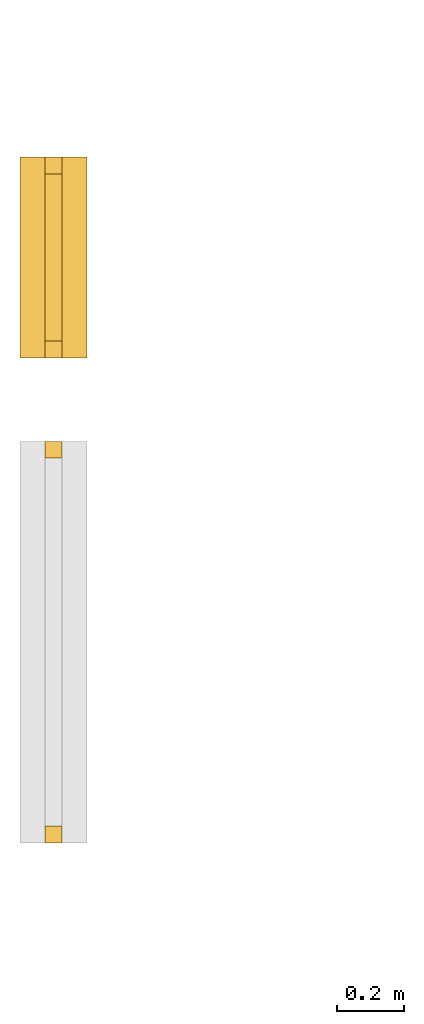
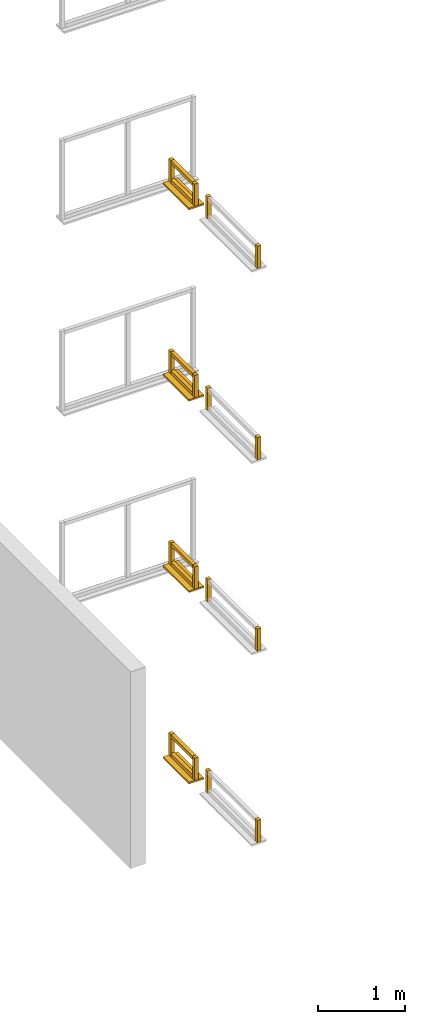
# Not in any storey, part 19 of 22: 28 windows.
"""IFC2X3 model written with IfcOpenShell, lengths in metres."""

import ifcopenshell
import ifcopenshell.guid

model = None  # the IFC model being written
_history = None  # IfcOwnerHistory: only IFC2X3 demands one
_inside = {}  # id of a spatial element -> (the spatial element, [elements in it])
_under = {}  # id of a project, library or spatial element -> (it, [spatial elements below it])
_declared = {}  # id of a project -> (the project, [libraries it declares])
_typed = {}  # id of a type object -> (the type object, [elements of that type])
_made_of = {}  # id of a material, layer set ... -> (it, [elements and type objects made of it])


def new_model(schema):
    """Start an empty IFC model of exactly this schema.

    Asked for "IFC4X3", IfcOpenShell would pick the latest addendum, in which some entities
    have other attributes; the version numbers below select the first issue.
    IFC2X3 requires an IfcOwnerHistory on every rooted entity: one is made here for all.
    """
    global model, _history
    if schema == "IFC4X3":
        model = ifcopenshell.file(schema_version=(4, 3, 0, 0))
    else:
        model = ifcopenshell.file(schema=schema)
    _inside.clear()
    _under.clear()
    _declared.clear()
    _typed.clear()
    _made_of.clear()
    _history = None
    if model.schema == "IFC2X3":
        org = make("IfcOrganization", Name="unknown")
        user = make(
            "IfcPersonAndOrganization",
            ThePerson=make("IfcPerson", FamilyName="unknown"),
            TheOrganization=org,
        )
        app = make(
            "IfcApplication",
            ApplicationDeveloper=org,
            Version="unknown",
            ApplicationFullName="unknown",
            ApplicationIdentifier="unknown",
        )
        _history = make(
            "IfcOwnerHistory",
            OwningUser=user,
            OwningApplication=app,
            ChangeAction="ADDED",
            CreationDate=0,
        )
    return model


def make(cls, **values):
    """One entity of the class cls with the attributes given. An attribute that is None is left unset."""
    return model.create_entity(
        cls, **{name: value for name, value in values.items() if value is not None}
    )


def rooted(cls, **values):
    """An entity with a GlobalId (a new one), such as an element, a storey or a relation."""
    return make(cls, GlobalId=ifcopenshell.guid.new(), OwnerHistory=_history, **values)


def si_unit(unit_type, name, prefix=None):
    """IfcSIUnit, for example si_unit("LENGTHUNIT", "METRE", prefix="MILLI")."""
    return make("IfcSIUnit", UnitType=unit_type, Prefix=prefix, Name=name)


def assignment(units):
    """IfcUnitAssignment: the units of a project."""
    return None if units is None else make("IfcUnitAssignment", Units=units)


def point(xyz):
    """IfcCartesianPoint."""
    return None if xyz is None else make("IfcCartesianPoint", Coordinates=xyz)


def direction(xyz):
    """IfcDirection."""
    return None if xyz is None else make("IfcDirection", DirectionRatios=xyz)


def frame(location, z_axis=None, x_axis=None):
    """IfcAxis2Placement3D, a coordinate frame: its origin and axes. An axis left out is left unset."""
    return make(
        "IfcAxis2Placement3D",
        Location=point(location),
        Axis=direction(z_axis),
        RefDirection=direction(x_axis),
    )


def origin():
    """The frame at (0, 0, 0) with its axes left unset."""
    return frame((0.0, 0.0, 0.0))


def place(relative_to, where):
    """IfcLocalPlacement: puts the frame where relative to a parent placement (None: the world)."""
    return make(
        "IfcLocalPlacement", PlacementRelTo=relative_to, RelativePlacement=where
    )


def context(
    kind, dimensions, precision=None, world=None, true_north=None, identifier=None
):
    """IfcGeometricRepresentationContext, for example the 3D "Model" context."""
    return make(
        "IfcGeometricRepresentationContext",
        ContextIdentifier=identifier,
        ContextType=kind,
        CoordinateSpaceDimension=dimensions,
        Precision=precision,
        WorldCoordinateSystem=world,
        TrueNorth=true_north,
    )


def project(units=None, contexts=None):
    """IfcProject with its units and contexts."""
    return rooted(
        "IfcProject",
        Name="project",
        RepresentationContexts=contexts,
        UnitsInContext=assignment(units),
    )


def faces_of(points, faces, orient=None, outer=None):
    """IfcFace entities. A face is a list of loops; a loop is a list of indices into points, from 0.

    orient and outer hold one flag for each loop. By default every Orientation is true, the
    first loop of a face is its IfcFaceOuterBound and the others are IfcFaceBound.
    """
    made = []
    for i, loops in enumerate(faces):
        bounds = []
        for j, loop in enumerate(loops):
            is_outer = j == 0 if outer is None else outer[i][j]
            bounds.append(
                make(
                    "IfcFaceOuterBound" if is_outer else "IfcFaceBound",
                    Bound=make("IfcPolyLoop", Polygon=[points[k] for k in loop]),
                    Orientation=True if orient is None else orient[i][j],
                )
            )
        made.append(make("IfcFace", Bounds=bounds))
    return made


def faceted_brep(points, faces, orient=None, outer=None, voids=None):
    """IfcFacetedBrep: a solid bounded by flat faces; with voids (closed shells), ...WithVoids."""
    shared = [point(p) for p in points]
    hull = make("IfcClosedShell", CfsFaces=faces_of(shared, faces, orient, outer))
    if voids is None:
        return make("IfcFacetedBrep", Outer=hull)
    return make(
        "IfcFacetedBrepWithVoids",
        Outer=hull,
        Voids=[
            make(cls, CfsFaces=faces_of(shared, fs, o, b)) for cls, fs, o, b in voids
        ],
    )


def shape(context_of_items, identifier, shape_type, items):
    """IfcShapeRepresentation: the items that make up one representation, for example the "Body"."""
    return make(
        "IfcShapeRepresentation",
        ContextOfItems=context_of_items,
        RepresentationIdentifier=identifier,
        RepresentationType=shape_type,
        Items=items,
    )


def made_of(thing, what):
    """Note that an element or type object is made of a material, layer set ...; save() writes the relation."""
    if what is not None:
        _made_of.setdefault(what.id(), (what, []))[1].append(thing)
    return thing


def element(
    cls,
    number,
    at=None,
    inside=None,
    cuts=None,
    type_object=None,
    material=None,
    context=None,
    identifier="Body",
    shape_type=None,
    held_by="IfcProductDefinitionShape",
    body=None,
    shapes=None,
    **own,
):
    """One element of the class cls, such as IfcWall. Its Tag is "e" and its number.

    at: its placement. inside: the storey or other place that contains it. cuts: it is an
    opening in that element (IfcRelVoidsElement). A single representation is given by context,
    identifier, shape_type and body (its items); several are given by shapes. held_by: the class
    of the entity that holds the representations. save() writes the other relations.
    """
    e = rooted(cls, Tag="e%d" % number, ObjectPlacement=at, **own)
    if body is not None:
        shapes = [shape(context, identifier, shape_type, body)]
    if shapes is not None:
        e.Representation = make(held_by, Representations=shapes)
    if inside is not None:
        _inside.setdefault(inside.id(), (inside, []))[1].append(e)
    if cuts is not None:
        rooted(
            "IfcRelVoidsElement", RelatingBuildingElement=cuts, RelatedOpeningElement=e
        )
    if type_object is not None:
        _typed.setdefault(type_object.id(), (type_object, []))[1].append(e)
    return made_of(e, material)


def aggregate(whole, parts):
    """IfcRelAggregates: a whole, such as a stair, and the parts it consists of."""
    return rooted("IfcRelAggregates", RelatingObject=whole, RelatedObjects=parts)


def save(model, path):
    """Write the relations noted so far, then the file.

    IfcRelAggregates (storeys below a building ...), IfcRelContainedInSpatialStructure (elements
    in a storey), IfcRelDefinesByType, IfcRelAssociatesMaterial and IfcRelDeclares: one each for
    every whole, place, type object, material and project.
    """
    for whole, parts in _under.values():
        aggregate(whole, parts)
    for where, things in _inside.values():
        rooted(
            "IfcRelContainedInSpatialStructure",
            RelatedElements=things,
            RelatingStructure=where,
        )
    for kind, things in _typed.values():
        rooted("IfcRelDefinesByType", RelatedObjects=things, RelatingType=kind)
    for what, things in _made_of.values():
        rooted("IfcRelAssociatesMaterial", RelatedObjects=things, RelatingMaterial=what)
    for by, libraries in _declared.values():
        rooted("IfcRelDeclares", RelatingContext=by, RelatedDefinitions=libraries)
    model.write(path)


model = new_model("IFC2X3")

# Units and contexts
model_context = context("Model", 3, precision=1e-06, world=origin())
ifc_project = project(units=[si_unit("LENGTHUNIT", "METRE"), si_unit("PLANEANGLEUNIT", "RADIAN")], contexts=[model_context])

# Windows
placement = place(None, origin())
window_1_placement = place(placement, frame((-0.20000000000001, 6.270077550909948, 9.910000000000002), z_axis=(0.0, 0.0, 1.0), x_axis=(0.0, -1.0, 0.0)))
element("IfcWindow", 1, at=window_1_placement, Name="windowSill", context=model_context, shape_type="Brep", body=[
    faceted_brep([(0.0, 0.2, 0.0), (0.6, 0.2, 0.0), (0.6, 0.0, 0.0), (0.0, 0.0, 0.0), (0.6, 0.0, 0.025), (0.6, 0.2, 0.025), (0.0, 0.2, 0.025), (0.0, 0.0, 0.025), (0.0, 0.2, 0.0), (0.0, 0.0, 0.0), (0.0, 0.0, 0.025), (0.0, 0.2, 0.025), (0.6, 0.2, 0.0), (0.0, 0.2, 0.0), (0.0, 0.2, 0.025), (0.6, 0.2, 0.025), (0.6, 0.0, 0.0), (0.6, 0.2, 0.0), (0.6, 0.2, 0.025), (0.6, 0.0, 0.025), (0.0, 0.0, 0.0), (0.6, 0.0, 0.0), (0.6, 0.0, 0.025), (0.0, 0.0, 0.025)], [[[0, 1, 2, 3]], [[4, 5, 6, 7]], [[8, 9, 10, 11]], [[12, 13, 14, 15]], [[16, 17, 18, 19]], [[20, 21, 22, 23]]]),
])
for number, where, z_axis, x_axis, name in (
    (2, (-0.12500000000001, 5.420077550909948, 1.835), (0.0, 0.0, 1.0), (0.0, -1.0, 0.0), "leftFrame"),
    (3, (-0.12500000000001, 4.270077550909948, 1.835), (0.0, 0.0, 1.0), (0.0, -1.0, 0.0), "rightFrame"),
):
    element("IfcWindow", number, at=place(placement, frame(where, z_axis=z_axis, x_axis=x_axis)), Name=name, context=model_context, shape_type="Brep", body=[
        faceted_brep([(0.0, 0.05, 0.0), (0.05, 0.05, 0.0), (0.05, 0.0, 0.0), (0.0, 0.0, 0.0), (0.05, 0.0, 0.315), (0.05, 0.05, 0.315), (0.0, 0.05, 0.315), (0.0, 0.0, 0.315), (0.0, 0.05, 0.0), (0.0, 0.0, 0.0), (0.0, 0.0, 0.315), (0.0, 0.05, 0.315), (0.05, 0.05, 0.0), (0.0, 0.05, 0.0), (0.0, 0.05, 0.315), (0.05, 0.05, 0.315), (0.05, 0.0, 0.0), (0.05, 0.05, 0.0), (0.05, 0.05, 0.315), (0.05, 0.0, 0.315), (0.0, 0.0, 0.0), (0.05, 0.0, 0.0), (0.05, 0.0, 0.315), (0.0, 0.0, 0.315)], [[[0, 1, 2, 3]], [[4, 5, 6, 7]], [[8, 9, 10, 11]], [[12, 13, 14, 15]], [[16, 17, 18, 19]], [[20, 21, 22, 23]]]),
    ])
for number, where, z_axis, x_axis, name in (
    (4, (-0.12500000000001, 6.220077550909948, 1.835), (0.0, 0.0, 1.0), (0.0, -1.0, 0.0), "bottomFrame"),
    (5, (-0.12500000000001, 6.220077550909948, 2.100000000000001), (0.0, 0.0, 1.0), (0.0, -1.0, 0.0), "topFrame"),
):
    element("IfcWindow", number, at=place(placement, frame(where, z_axis=z_axis, x_axis=x_axis)), Name=name, context=model_context, shape_type="Brep", body=[
        faceted_brep([(0.0, 0.05, 0.0), (0.5, 0.05, 0.0), (0.5, 0.0, 0.0), (0.0, 0.0, 0.0), (0.5, 0.0, 0.05), (0.5, 0.05, 0.05), (0.0, 0.05, 0.05), (0.0, 0.0, 0.05), (0.0, 0.05, 0.0), (0.0, 0.0, 0.0), (0.0, 0.0, 0.05), (0.0, 0.05, 0.05), (0.5, 0.05, 0.0), (0.0, 0.05, 0.0), (0.0, 0.05, 0.05), (0.5, 0.05, 0.05), (0.5, 0.0, 0.0), (0.5, 0.05, 0.0), (0.5, 0.05, 0.05), (0.5, 0.0, 0.05), (0.0, 0.0, 0.0), (0.5, 0.0, 0.0), (0.5, 0.0, 0.05), (0.0, 0.0, 0.05)], [[[0, 1, 2, 3]], [[4, 5, 6, 7]], [[8, 9, 10, 11]], [[12, 13, 14, 15]], [[16, 17, 18, 19]], [[20, 21, 22, 23]]]),
    ])
for number, where, z_axis, x_axis, name in (
    (6, (-0.12500000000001, 6.270077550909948, 1.835), (0.0, 0.0, 1.0), (0.0, -1.0, 0.0), "leftFrame"),
    (7, (-0.12500000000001, 5.720077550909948, 1.835), (0.0, 0.0, 1.0), (0.0, -1.0, 0.0), "rightFrame"),
):
    element("IfcWindow", number, at=place(placement, frame(where, z_axis=z_axis, x_axis=x_axis)), Name=name, context=model_context, shape_type="Brep", body=[
        faceted_brep([(0.0, 0.05, 0.0), (0.05, 0.05, 0.0), (0.05, 0.0, 0.0), (0.0, 0.0, 0.0), (0.05, 0.0, 0.315), (0.05, 0.05, 0.315), (0.0, 0.05, 0.315), (0.0, 0.0, 0.315), (0.0, 0.05, 0.0), (0.0, 0.0, 0.0), (0.0, 0.0, 0.315), (0.0, 0.05, 0.315), (0.05, 0.05, 0.0), (0.0, 0.05, 0.0), (0.0, 0.05, 0.315), (0.05, 0.05, 0.315), (0.05, 0.0, 0.0), (0.05, 0.05, 0.0), (0.05, 0.05, 0.315), (0.05, 0.0, 0.315), (0.0, 0.0, 0.0), (0.05, 0.0, 0.0), (0.05, 0.0, 0.315), (0.0, 0.0, 0.315)], [[[0, 1, 2, 3]], [[4, 5, 6, 7]], [[8, 9, 10, 11]], [[12, 13, 14, 15]], [[16, 17, 18, 19]], [[20, 21, 22, 23]]]),
    ])
window_2_placement = place(placement, frame((-0.20000000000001, 6.270077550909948, 1.810000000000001), z_axis=(0.0, 0.0, 1.0), x_axis=(0.0, -1.0, 0.0)))
element("IfcWindow", 8, at=window_2_placement, Name="windowSill", context=model_context, shape_type="Brep", body=[
    faceted_brep([(0.0, 0.2, 0.0), (0.6, 0.2, 0.0), (0.6, 0.0, 0.0), (0.0, 0.0, 0.0), (0.6, 0.0, 0.025), (0.6, 0.2, 0.025), (0.0, 0.2, 0.025), (0.0, 0.0, 0.025), (0.0, 0.2, 0.0), (0.0, 0.0, 0.0), (0.0, 0.0, 0.025), (0.0, 0.2, 0.025), (0.6, 0.2, 0.0), (0.0, 0.2, 0.0), (0.0, 0.2, 0.025), (0.6, 0.2, 0.025), (0.6, 0.0, 0.0), (0.6, 0.2, 0.0), (0.6, 0.2, 0.025), (0.6, 0.0, 0.025), (0.0, 0.0, 0.0), (0.6, 0.0, 0.0), (0.6, 0.0, 0.025), (0.0, 0.0, 0.025)], [[[0, 1, 2, 3]], [[4, 5, 6, 7]], [[8, 9, 10, 11]], [[12, 13, 14, 15]], [[16, 17, 18, 19]], [[20, 21, 22, 23]]]),
])
for number, where, z_axis, x_axis, name in (
    (9, (-0.12500000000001, 4.270077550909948, 4.535000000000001), (0.0, 0.0, 1.0), (0.0, -1.0, 0.0), "rightFrame"),
    (10, (-0.12500000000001, 5.420077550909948, 4.535000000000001), (0.0, 0.0, 1.0), (0.0, -1.0, 0.0), "leftFrame"),
):
    element("IfcWindow", number, at=place(placement, frame(where, z_axis=z_axis, x_axis=x_axis)), Name=name, context=model_context, shape_type="Brep", body=[
        faceted_brep([(0.0, 0.05, 0.0), (0.05, 0.05, 0.0), (0.05, 0.0, 0.0), (0.0, 0.0, 0.0), (0.05, 0.0, 0.315), (0.05, 0.05, 0.315), (0.0, 0.05, 0.315), (0.0, 0.0, 0.315), (0.0, 0.05, 0.0), (0.0, 0.0, 0.0), (0.0, 0.0, 0.315), (0.0, 0.05, 0.315), (0.05, 0.05, 0.0), (0.0, 0.05, 0.0), (0.0, 0.05, 0.315), (0.05, 0.05, 0.315), (0.05, 0.0, 0.0), (0.05, 0.05, 0.0), (0.05, 0.05, 0.315), (0.05, 0.0, 0.315), (0.0, 0.0, 0.0), (0.05, 0.0, 0.0), (0.05, 0.0, 0.315), (0.0, 0.0, 0.315)], [[[0, 1, 2, 3]], [[4, 5, 6, 7]], [[8, 9, 10, 11]], [[12, 13, 14, 15]], [[16, 17, 18, 19]], [[20, 21, 22, 23]]]),
    ])
window_3_placement = place(placement, frame((-0.20000000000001, 6.270077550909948, 4.510000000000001), z_axis=(0.0, 0.0, 1.0), x_axis=(0.0, -1.0, 0.0)))
element("IfcWindow", 11, at=window_3_placement, Name="windowSill", context=model_context, shape_type="Brep", body=[
    faceted_brep([(0.0, 0.2, 0.0), (0.6, 0.2, 0.0), (0.6, 0.0, 0.0), (0.0, 0.0, 0.0), (0.6, 0.0, 0.025), (0.6, 0.2, 0.025), (0.0, 0.2, 0.025), (0.0, 0.0, 0.025), (0.0, 0.2, 0.0), (0.0, 0.0, 0.0), (0.0, 0.0, 0.025), (0.0, 0.2, 0.025), (0.6, 0.2, 0.0), (0.0, 0.2, 0.0), (0.0, 0.2, 0.025), (0.6, 0.2, 0.025), (0.6, 0.0, 0.0), (0.6, 0.2, 0.0), (0.6, 0.2, 0.025), (0.6, 0.0, 0.025), (0.0, 0.0, 0.0), (0.6, 0.0, 0.0), (0.6, 0.0, 0.025), (0.0, 0.0, 0.025)], [[[0, 1, 2, 3]], [[4, 5, 6, 7]], [[8, 9, 10, 11]], [[12, 13, 14, 15]], [[16, 17, 18, 19]], [[20, 21, 22, 23]]]),
])
for number, where, z_axis, x_axis, name in (
    (12, (-0.12500000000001, 5.720077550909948, 4.535000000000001), (0.0, 0.0, 1.0), (0.0, -1.0, 0.0), "rightFrame"),
    (13, (-0.12500000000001, 6.270077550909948, 4.535000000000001), (0.0, 0.0, 1.0), (0.0, -1.0, 0.0), "leftFrame"),
):
    element("IfcWindow", number, at=place(placement, frame(where, z_axis=z_axis, x_axis=x_axis)), Name=name, context=model_context, shape_type="Brep", body=[
        faceted_brep([(0.0, 0.05, 0.0), (0.05, 0.05, 0.0), (0.05, 0.0, 0.0), (0.0, 0.0, 0.0), (0.05, 0.0, 0.315), (0.05, 0.05, 0.315), (0.0, 0.05, 0.315), (0.0, 0.0, 0.315), (0.0, 0.05, 0.0), (0.0, 0.0, 0.0), (0.0, 0.0, 0.315), (0.0, 0.05, 0.315), (0.05, 0.05, 0.0), (0.0, 0.05, 0.0), (0.0, 0.05, 0.315), (0.05, 0.05, 0.315), (0.05, 0.0, 0.0), (0.05, 0.05, 0.0), (0.05, 0.05, 0.315), (0.05, 0.0, 0.315), (0.0, 0.0, 0.0), (0.05, 0.0, 0.0), (0.05, 0.0, 0.315), (0.0, 0.0, 0.315)], [[[0, 1, 2, 3]], [[4, 5, 6, 7]], [[8, 9, 10, 11]], [[12, 13, 14, 15]], [[16, 17, 18, 19]], [[20, 21, 22, 23]]]),
    ])
for number, where, z_axis, x_axis, name in (
    (14, (-0.12500000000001, 6.220077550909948, 4.800000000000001), (0.0, 0.0, 1.0), (0.0, -1.0, 0.0), "topFrame"),
    (15, (-0.12500000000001, 6.220077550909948, 4.535000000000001), (0.0, 0.0, 1.0), (0.0, -1.0, 0.0), "bottomFrame"),
    (16, (-0.12500000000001, 6.220077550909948, 7.235000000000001), (0.0, 0.0, 1.0), (0.0, -1.0, 0.0), "bottomFrame"),
    (17, (-0.12500000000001, 6.220077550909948, 7.500000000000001), (0.0, 0.0, 1.0), (0.0, -1.0, 0.0), "topFrame"),
):
    element("IfcWindow", number, at=place(placement, frame(where, z_axis=z_axis, x_axis=x_axis)), Name=name, context=model_context, shape_type="Brep", body=[
        faceted_brep([(0.0, 0.05, 0.0), (0.5, 0.05, 0.0), (0.5, 0.0, 0.0), (0.0, 0.0, 0.0), (0.5, 0.0, 0.05), (0.5, 0.05, 0.05), (0.0, 0.05, 0.05), (0.0, 0.0, 0.05), (0.0, 0.05, 0.0), (0.0, 0.0, 0.0), (0.0, 0.0, 0.05), (0.0, 0.05, 0.05), (0.5, 0.05, 0.0), (0.0, 0.05, 0.0), (0.0, 0.05, 0.05), (0.5, 0.05, 0.05), (0.5, 0.0, 0.0), (0.5, 0.05, 0.0), (0.5, 0.05, 0.05), (0.5, 0.0, 0.05), (0.0, 0.0, 0.0), (0.5, 0.0, 0.0), (0.5, 0.0, 0.05), (0.0, 0.0, 0.05)], [[[0, 1, 2, 3]], [[4, 5, 6, 7]], [[8, 9, 10, 11]], [[12, 13, 14, 15]], [[16, 17, 18, 19]], [[20, 21, 22, 23]]]),
    ])
for number, where, z_axis, x_axis, name in (
    (18, (-0.12500000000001, 6.270077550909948, 7.235000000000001), (0.0, 0.0, 1.0), (0.0, -1.0, 0.0), "leftFrame"),
    (19, (-0.12500000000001, 5.720077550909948, 7.235000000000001), (0.0, 0.0, 1.0), (0.0, -1.0, 0.0), "rightFrame"),
):
    element("IfcWindow", number, at=place(placement, frame(where, z_axis=z_axis, x_axis=x_axis)), Name=name, context=model_context, shape_type="Brep", body=[
        faceted_brep([(0.0, 0.05, 0.0), (0.05, 0.05, 0.0), (0.05, 0.0, 0.0), (0.0, 0.0, 0.0), (0.05, 0.0, 0.315), (0.05, 0.05, 0.315), (0.0, 0.05, 0.315), (0.0, 0.0, 0.315), (0.0, 0.05, 0.0), (0.0, 0.0, 0.0), (0.0, 0.0, 0.315), (0.0, 0.05, 0.315), (0.05, 0.05, 0.0), (0.0, 0.05, 0.0), (0.0, 0.05, 0.315), (0.05, 0.05, 0.315), (0.05, 0.0, 0.0), (0.05, 0.05, 0.0), (0.05, 0.05, 0.315), (0.05, 0.0, 0.315), (0.0, 0.0, 0.0), (0.05, 0.0, 0.0), (0.05, 0.0, 0.315), (0.0, 0.0, 0.315)], [[[0, 1, 2, 3]], [[4, 5, 6, 7]], [[8, 9, 10, 11]], [[12, 13, 14, 15]], [[16, 17, 18, 19]], [[20, 21, 22, 23]]]),
    ])
window_4_placement = place(placement, frame((-0.20000000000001, 6.270077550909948, 7.210000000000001), z_axis=(0.0, 0.0, 1.0), x_axis=(0.0, -1.0, 0.0)))
element("IfcWindow", 20, at=window_4_placement, Name="windowSill", context=model_context, shape_type="Brep", body=[
    faceted_brep([(0.0, 0.2, 0.0), (0.6, 0.2, 0.0), (0.6, 0.0, 0.0), (0.0, 0.0, 0.0), (0.6, 0.0, 0.025), (0.6, 0.2, 0.025), (0.0, 0.2, 0.025), (0.0, 0.0, 0.025), (0.0, 0.2, 0.0), (0.0, 0.0, 0.0), (0.0, 0.0, 0.025), (0.0, 0.2, 0.025), (0.6, 0.2, 0.0), (0.0, 0.2, 0.0), (0.0, 0.2, 0.025), (0.6, 0.2, 0.025), (0.6, 0.0, 0.0), (0.6, 0.2, 0.0), (0.6, 0.2, 0.025), (0.6, 0.0, 0.025), (0.0, 0.0, 0.0), (0.6, 0.0, 0.0), (0.6, 0.0, 0.025), (0.0, 0.0, 0.025)], [[[0, 1, 2, 3]], [[4, 5, 6, 7]], [[8, 9, 10, 11]], [[12, 13, 14, 15]], [[16, 17, 18, 19]], [[20, 21, 22, 23]]]),
])
for number, where, z_axis, x_axis, name in (
    (21, (-0.12500000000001, 5.420077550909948, 7.235000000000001), (0.0, 0.0, 1.0), (0.0, -1.0, 0.0), "leftFrame"),
    (22, (-0.12500000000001, 5.720077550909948, 9.935000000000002), (0.0, 0.0, 1.0), (0.0, -1.0, 0.0), "rightFrame"),
    (23, (-0.12500000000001, 6.270077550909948, 9.935000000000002), (0.0, 0.0, 1.0), (0.0, -1.0, 0.0), "leftFrame"),
    (24, (-0.12500000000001, 4.270077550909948, 7.235000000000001), (0.0, 0.0, 1.0), (0.0, -1.0, 0.0), "rightFrame"),
    (25, (-0.12500000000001, 4.270077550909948, 9.935000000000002), (0.0, 0.0, 1.0), (0.0, -1.0, 0.0), "rightFrame"),
    (26, (-0.12500000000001, 5.420077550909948, 9.935000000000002), (0.0, 0.0, 1.0), (0.0, -1.0, 0.0), "leftFrame"),
):
    element("IfcWindow", number, at=place(placement, frame(where, z_axis=z_axis, x_axis=x_axis)), Name=name, context=model_context, shape_type="Brep", body=[
        faceted_brep([(0.0, 0.05, 0.0), (0.05, 0.05, 0.0), (0.05, 0.0, 0.0), (0.0, 0.0, 0.0), (0.05, 0.0, 0.315), (0.05, 0.05, 0.315), (0.0, 0.05, 0.315), (0.0, 0.0, 0.315), (0.0, 0.05, 0.0), (0.0, 0.0, 0.0), (0.0, 0.0, 0.315), (0.0, 0.05, 0.315), (0.05, 0.05, 0.0), (0.0, 0.05, 0.0), (0.0, 0.05, 0.315), (0.05, 0.05, 0.315), (0.05, 0.0, 0.0), (0.05, 0.05, 0.0), (0.05, 0.05, 0.315), (0.05, 0.0, 0.315), (0.0, 0.0, 0.0), (0.05, 0.0, 0.0), (0.05, 0.0, 0.315), (0.0, 0.0, 0.315)], [[[0, 1, 2, 3]], [[4, 5, 6, 7]], [[8, 9, 10, 11]], [[12, 13, 14, 15]], [[16, 17, 18, 19]], [[20, 21, 22, 23]]]),
    ])
for number, where, z_axis, x_axis, name in (
    (27, (-0.12500000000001, 6.220077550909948, 10.200000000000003), (0.0, 0.0, 1.0), (0.0, -1.0, 0.0), "topFrame"),
    (28, (-0.12500000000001, 6.220077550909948, 9.935000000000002), (0.0, 0.0, 1.0), (0.0, -1.0, 0.0), "bottomFrame"),
):
    element("IfcWindow", number, at=place(placement, frame(where, z_axis=z_axis, x_axis=x_axis)), Name=name, context=model_context, shape_type="Brep", body=[
        faceted_brep([(0.0, 0.05, 0.0), (0.5, 0.05, 0.0), (0.5, 0.0, 0.0), (0.0, 0.0, 0.0), (0.5, 0.0, 0.05), (0.5, 0.05, 0.05), (0.0, 0.05, 0.05), (0.0, 0.0, 0.05), (0.0, 0.05, 0.0), (0.0, 0.0, 0.0), (0.0, 0.0, 0.05), (0.0, 0.05, 0.05), (0.5, 0.05, 0.0), (0.0, 0.05, 0.0), (0.0, 0.05, 0.05), (0.5, 0.05, 0.05), (0.5, 0.0, 0.0), (0.5, 0.05, 0.0), (0.5, 0.05, 0.05), (0.5, 0.0, 0.05), (0.0, 0.0, 0.0), (0.5, 0.0, 0.0), (0.5, 0.0, 0.05), (0.0, 0.0, 0.05)], [[[0, 1, 2, 3]], [[4, 5, 6, 7]], [[8, 9, 10, 11]], [[12, 13, 14, 15]], [[16, 17, 18, 19]], [[20, 21, 22, 23]]]),
    ])

save(model, "model.ifc")
